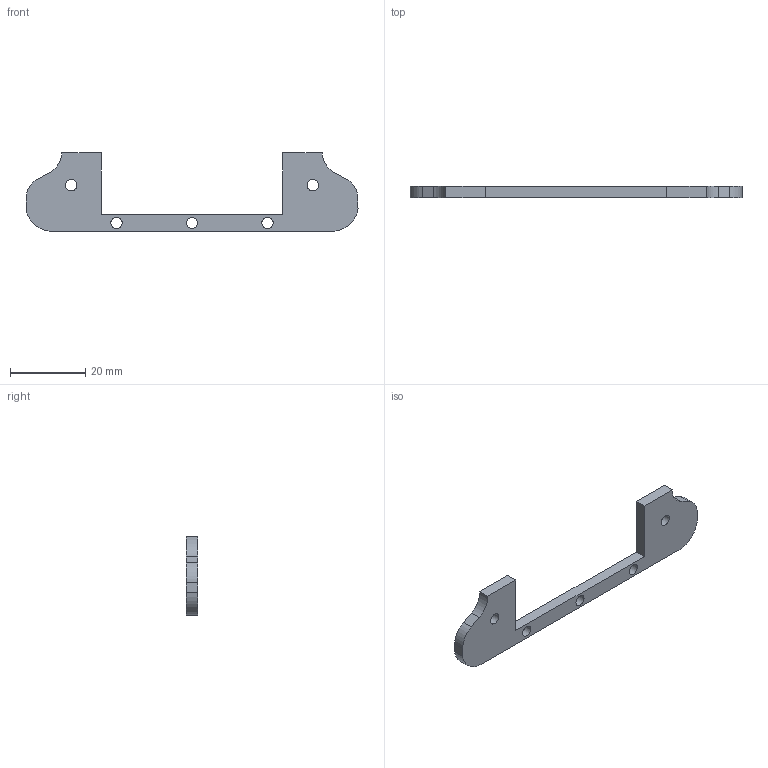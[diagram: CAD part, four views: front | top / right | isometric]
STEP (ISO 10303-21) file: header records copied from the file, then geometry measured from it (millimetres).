
FILE_DESCRIPTION(/* description */ (''),/* implementation_level */ '2;1');
FILE_NAME(/* name */ 'Component10.step',/* time_stamp */ '2026-06-04T14:59:22+03:00',/* author */ (''),/* organization */ (''),/* preprocessor_version */ 'ST-DEVELOPER v20.1',/* originating_system */ 'Autodesk Translation Framework v15.8.0.0',/* authorisation */ '');
FILE_SCHEMA (('AUTOMOTIVE_DESIGN { 1 0 10303 214 3 1 1 }'));
Length unit declared in the file: millimetre
Products named in the file (1): Component10
Bounding box: 88 x 3 x 20.82 mm (x, y, z)
Volume: 2619.7 mm3; surface area: 2590.5 mm2
Topology: 1 solids, 1 shells, 23 faces, 63 edges, 42 vertices
Faces by surface type: plane 12, cylinder 11
Full cylindrical faces by diameter (mm): 3 x5
Entity records: 792 total; most frequent: DIRECTION 133, CARTESIAN_POINT 129, ORIENTED_EDGE 126, EDGE_CURVE 63, AXIS2_PLACEMENT_3D 46, VERTEX_POINT 42, LINE 41, VECTOR 41
